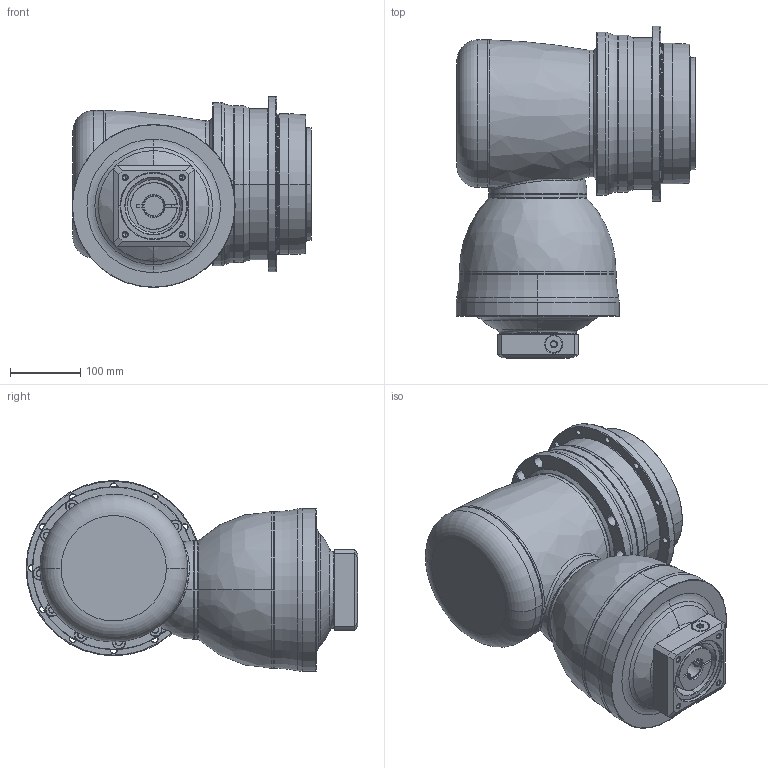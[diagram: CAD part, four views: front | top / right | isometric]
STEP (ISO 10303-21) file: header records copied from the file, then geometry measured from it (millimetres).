
FILE_DESCRIPTION((''),'2;1');
FILE_NAME('AHKB200_3ST_28-P0409600101_ASM','2016-12-14T',('d01943'),(''),'PRO/ENGINEER BY PARAMETRIC TECHNOLOGY CORPORATION, 2008410','PRO/ENGINEER BY PARAMETRIC TECHNOLOGY CORPORATION, 2008410','');
FILE_SCHEMA(('CONFIG_CONTROL_DESIGN'));
Length unit declared in the file: millimetre
Products named in the file (12): P1008600002; P1802600011; P0278600003; P0359600002; P1315600001; P1007600001; P1317600101; P0409600101; P0503600010; P0912501001; 21711418017; AHKB200_3ST_28-P0409600101_ASM
Assembly tree (11 placements, depth 2):
  AHKB200_3ST_28-P0409600101_ASM
    P1008600002
    P1802600011
    P0278600003
    P0359600002
    P1315600001
    P1007600001
    P1317600101
    P0409600101
    P0503600010
    P0912501001
    21711418017
Bounding box: 341 x 472.25 x 271.75 mm (x, y, z)
Volume: 13568302 mm3; surface area: 1136021.5 mm2
Topology: 12 solids, 12 shells, 993 faces, 2273 edges, 1306 vertices
Faces by surface type: cylinder 356, cone 332, plane 136, torus 128, bspline 39, sphere 2
Entity records: 34120 total; most frequent: CARTESIAN_POINT 11365, DIRECTION 5240, ORIENTED_EDGE 4358, AXIS2_PLACEMENT_3D 2240, EDGE_CURVE 2179, VERTEX_POINT 1306, CIRCLE 1263, EDGE_LOOP 1151
